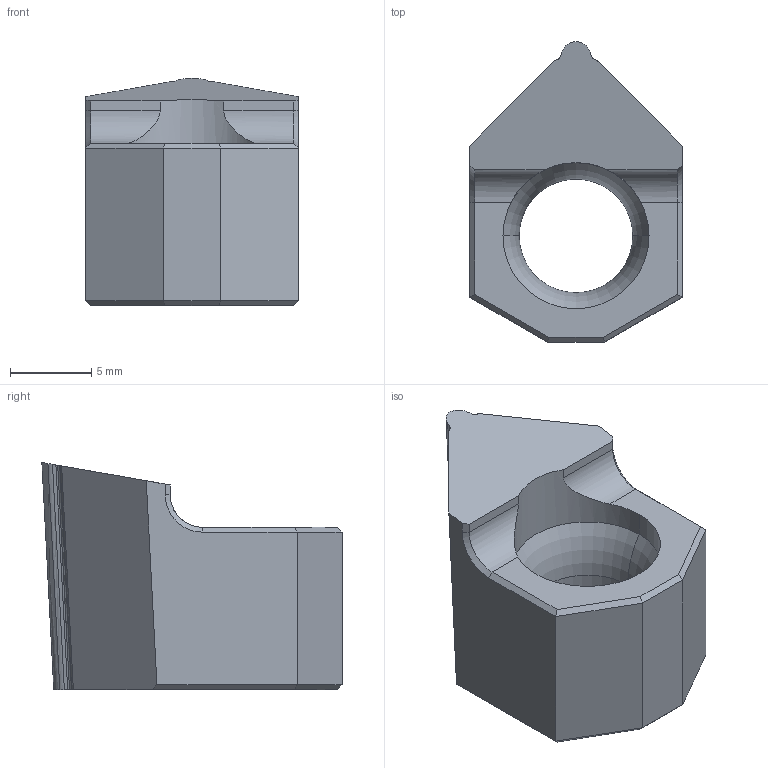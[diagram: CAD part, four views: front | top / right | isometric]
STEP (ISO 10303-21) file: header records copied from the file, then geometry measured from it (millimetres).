
FILE_DESCRIPTION (( 'STEP AP214' ), '1' );
FILE_NAME ('IN-PG3-28_56.STEP', '2023-07-22T09:00:55', ( 'Paolo' ), ( '' ), 'SwSTEP 2.0', 'SolidWorks 2020', '' );
FILE_SCHEMA (( 'AUTOMOTIVE_DESIGN' ));
Length unit declared in the file: millimetre
Products named in the file (1): IN-PG3-28_56
Bounding box: 13.1 x 18.5 x 14 mm (x, y, z)
Volume: 1565.3 mm3; surface area: 1103.1 mm2
Topology: 1 solids, 1 shells, 50 faces, 129 edges, 80 vertices
Faces by surface type: plane 26, bspline 12, cylinder 6, cone 4, torus 2
Entity records: 1662 total; most frequent: CARTESIAN_POINT 501, ORIENTED_EDGE 258, DIRECTION 197, EDGE_CURVE 129, VECTOR 85, LINE 85, VERTEX_POINT 80, AXIS2_PLACEMENT_3D 56
